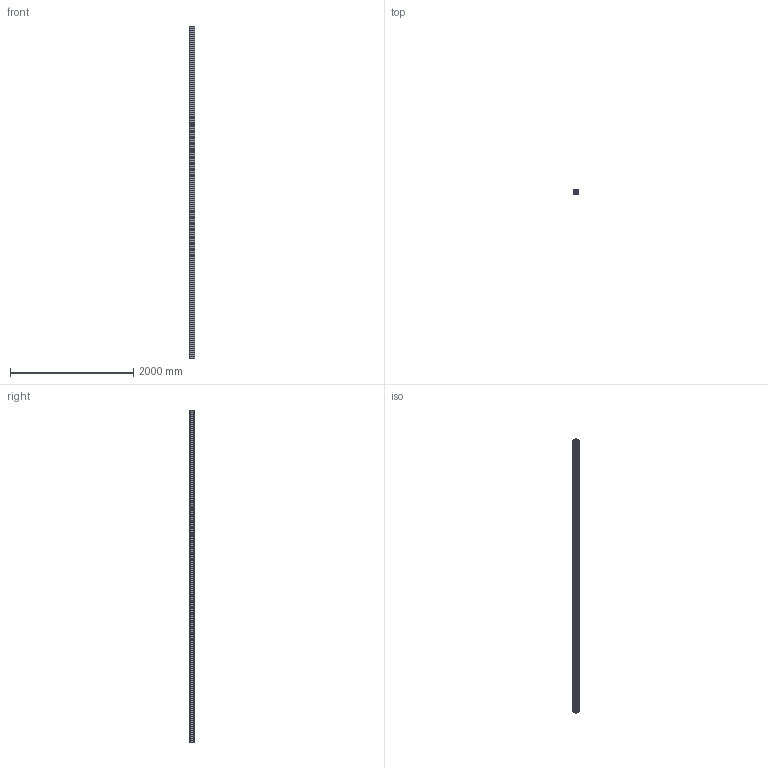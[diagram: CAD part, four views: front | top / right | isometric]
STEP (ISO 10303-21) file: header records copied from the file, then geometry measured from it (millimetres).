
FILE_DESCRIPTION (( 'STEP AP203' ), '1' );
FILE_NAME ('_-_MLF 4 5398 mm lang.step', '2005-09-01T12:47:29', ( ' ' ), ( ' ' ), 'SwSTEP 2.0', 'SolidWorks 2005187', '' );
FILE_SCHEMA (( 'CONFIG_CONTROL_DESIGN' ));
Length unit declared in the file: millimetre
Products named in the file (1): _-_MLF 4  5398 mm lang
Bounding box: 87.56 x 80 x 5398 mm (x, y, z)
Volume: 12438285.6 mm3; surface area: 6664080.5 mm2
Topology: 1 solids, 1 shells, 248 faces, 762 edges, 500 vertices
Faces by surface type: plane 174, cylinder 74
Entity records: 8575 total; most frequent: ORIENTED_EDGE 1524, CARTESIAN_POINT 1511, DIRECTION 1408, EDGE_CURVE 762, VECTOR 614, LINE 614, VERTEX_POINT 500, AXIS2_PLACEMENT_3D 397
